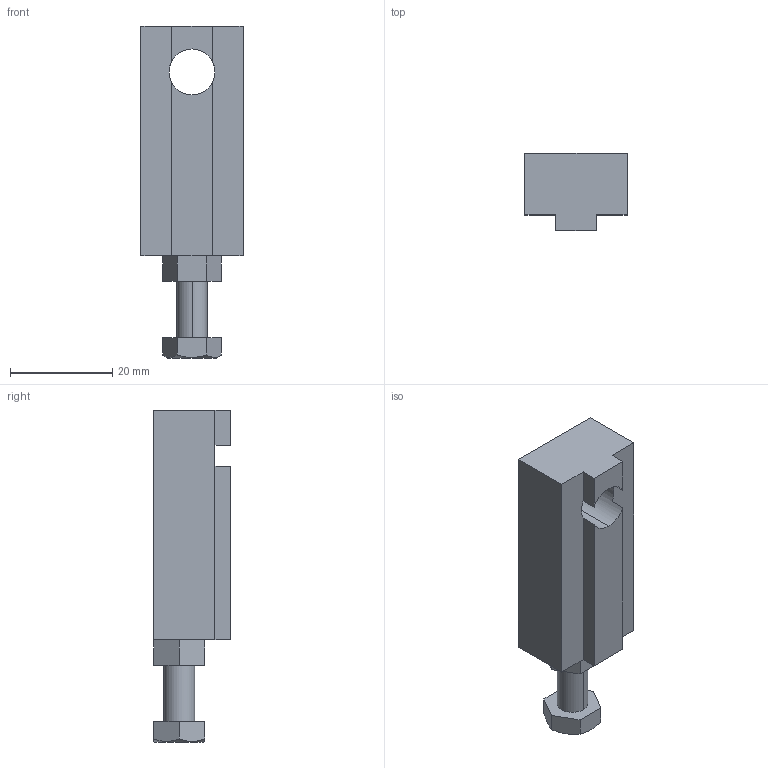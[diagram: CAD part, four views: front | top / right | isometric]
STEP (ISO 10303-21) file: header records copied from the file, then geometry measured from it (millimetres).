
FILE_DESCRIPTION (( 'STEP AP203' ), '1' );
FILE_NAME ('084.802.008.STEP', '2013-01-29T10:38:35', ( 'Alusic' ), ( 'Alusic' ), 'SwSTEP 2.0', 'SolidWorks 2011', '' );
FILE_SCHEMA (( 'CONFIG_CONTROL_DESIGN' ));
Length unit declared in the file: millimetre
Products named in the file (1): 084.802.008
Bounding box: 20 x 15 x 65 mm (x, y, z)
Volume: 11535.4 mm3; surface area: 5651.2 mm2
Topology: 3 solids, 3 shells, 47 faces, 116 edges, 75 vertices
Faces by surface type: plane 31, cylinder 10, cone 6
Entity records: 1493 total; most frequent: CARTESIAN_POINT 293, DIRECTION 230, ORIENTED_EDGE 228, EDGE_CURVE 114, VECTOR 78, LINE 78, AXIS2_PLACEMENT_3D 76, VERTEX_POINT 75
